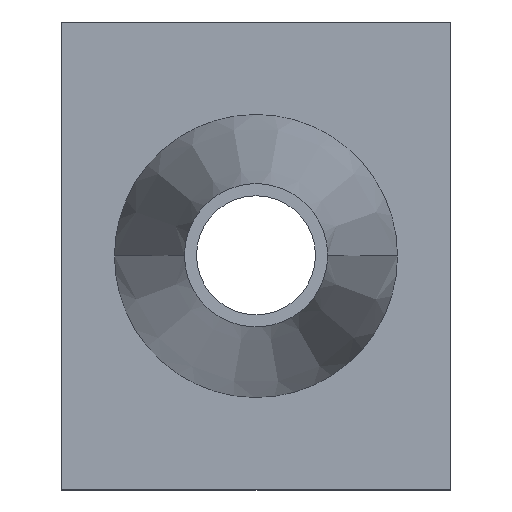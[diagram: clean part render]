
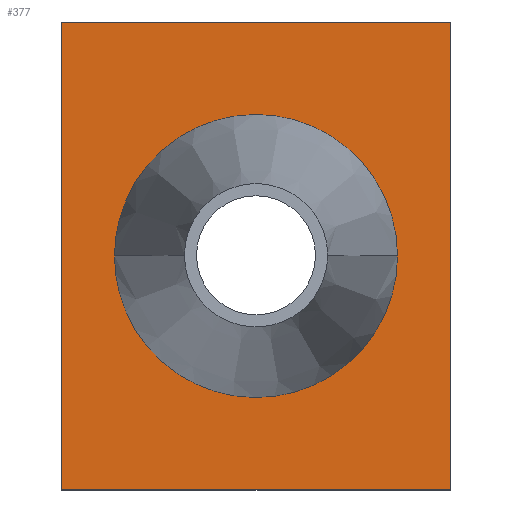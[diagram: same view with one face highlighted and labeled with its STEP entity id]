
A CAD part, top view. The second image highlights one B-rep face of the part: STEP entity #377.
In plain terms, the highlighted planar face has unit normal (0, 0, 1).
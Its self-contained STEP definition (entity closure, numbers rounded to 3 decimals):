
#167=CARTESIAN_POINT('Vertex',(0.,118.,3.)) ;
#174=CARTESIAN_POINT('Vertex',(0.,0.,3.)) ;
#177=CARTESIAN_POINT('Line Origine',(0.,59.,3.)) ;
#198=CARTESIAN_POINT('Vertex',(98.,118.,3.)) ;
#201=CARTESIAN_POINT('Line Origine',(49.,118.,3.)) ;
#222=CARTESIAN_POINT('Vertex',(98.,0.,3.)) ;
#225=CARTESIAN_POINT('Line Origine',(98.,59.,3.)) ;
#242=CARTESIAN_POINT('Line Origine',(49.,0.,3.)) ;
#324=CARTESIAN_POINT('Axis2P3D Location',(0.,0.,3.)) ;
#336=CARTESIAN_POINT('Control Point',(84.679,59.,3.)) ;
#337=CARTESIAN_POINT('Control Point',(84.679,64.868,3.)) ;
#338=CARTESIAN_POINT('Control Point',(83.473,70.736,3.)) ;
#339=CARTESIAN_POINT('Control Point',(81.058,76.273,3.)) ;
#340=CARTESIAN_POINT('Control Point',(74.1,86.028,3.)) ;
#341=CARTESIAN_POINT('Control Point',(63.858,92.247,3.)) ;
#342=CARTESIAN_POINT('Control Point',(58.156,94.246,3.)) ;
#343=CARTESIAN_POINT('Control Point',(46.272,95.785,3.)) ;
#344=CARTESIAN_POINT('Control Point',(34.745,92.51,3.)) ;
#345=CARTESIAN_POINT('Control Point',(29.4,89.691,3.)) ;
#346=CARTESIAN_POINT('Control Point',(21.017,82.72,3.)) ;
#347=CARTESIAN_POINT('Control Point',(15.755,73.253,3.)) ;
#348=CARTESIAN_POINT('Control Point',(14.132,68.623,3.)) ;
#349=CARTESIAN_POINT('Control Point',(13.321,63.812,3.)) ;
#350=CARTESIAN_POINT('Control Point',(13.321,59.,3.)) ;
#351=CARTESIAN_POINT('Vertex',(84.679,59.,3.)) ;
#353=CARTESIAN_POINT('Vertex',(13.321,59.,3.)) ;
#357=CARTESIAN_POINT('Control Point',(84.679,59.,3.)) ;
#358=CARTESIAN_POINT('Control Point',(84.679,53.132,3.)) ;
#359=CARTESIAN_POINT('Control Point',(83.473,47.264,3.)) ;
#360=CARTESIAN_POINT('Control Point',(81.058,41.727,3.)) ;
#361=CARTESIAN_POINT('Control Point',(74.1,31.972,3.)) ;
#362=CARTESIAN_POINT('Control Point',(63.858,25.753,3.)) ;
#363=CARTESIAN_POINT('Control Point',(58.156,23.754,3.)) ;
#364=CARTESIAN_POINT('Control Point',(46.272,22.215,3.)) ;
#365=CARTESIAN_POINT('Control Point',(34.745,25.49,3.)) ;
#366=CARTESIAN_POINT('Control Point',(29.4,28.309,3.)) ;
#367=CARTESIAN_POINT('Control Point',(21.017,35.28,3.)) ;
#368=CARTESIAN_POINT('Control Point',(15.755,44.747,3.)) ;
#369=CARTESIAN_POINT('Control Point',(14.132,49.377,3.)) ;
#370=CARTESIAN_POINT('Control Point',(13.321,54.188,3.)) ;
#371=CARTESIAN_POINT('Control Point',(13.321,59.,3.)) ;
#178=DIRECTION('Vector Direction',(0.,1.,0.)) ;
#202=DIRECTION('Vector Direction',(-1.,0.,0.)) ;
#226=DIRECTION('Vector Direction',(0.,1.,0.)) ;
#243=DIRECTION('Vector Direction',(1.,0.,0.)) ;
#325=DIRECTION('Axis2P3D Direction',(0.,0.,1.)) ;
#326=DIRECTION('Axis2P3D XDirection',(1.,0.,0.)) ;
#327=AXIS2_PLACEMENT_3D('Plane Axis2P3D',#324,#325,#326) ;
#330=ORIENTED_EDGE('',*,*,#181,.F.) ;
#331=ORIENTED_EDGE('',*,*,#246,.T.) ;
#332=ORIENTED_EDGE('',*,*,#229,.T.) ;
#333=ORIENTED_EDGE('',*,*,#205,.T.) ;
#374=ORIENTED_EDGE('',*,*,#355,.F.) ;
#375=ORIENTED_EDGE('',*,*,#372,.T.) ;
#376=FACE_BOUND('',#373,.T.) ;
#179=VECTOR('Line Direction',#178,1.) ;
#203=VECTOR('Line Direction',#202,1.) ;
#227=VECTOR('Line Direction',#226,1.) ;
#244=VECTOR('Line Direction',#243,1.) ;
#377=ADVANCED_FACE('PartBody',(#334,#376),#328,.T.) ;
#335=B_SPLINE_CURVE_WITH_KNOTS('',5,(#336,#337,#338,#339,#340,#341,#342,#343,#344,#345,#346,#347,#348,#349,#350),.UNSPECIFIED.,.F.,.U.,(6,3,3,3,6),(0.,31.827,63.659,95.491,121.589),.UNSPECIFIED.) ;
#356=B_SPLINE_CURVE_WITH_KNOTS('',5,(#357,#358,#359,#360,#361,#362,#363,#364,#365,#366,#367,#368,#369,#370,#371),.UNSPECIFIED.,.F.,.U.,(6,3,3,3,6),(0.,31.827,63.659,95.491,121.589),.UNSPECIFIED.) ;
#181=EDGE_CURVE('',#175,#168,#180,.T.) ;
#205=EDGE_CURVE('',#199,#168,#204,.T.) ;
#229=EDGE_CURVE('',#223,#199,#228,.T.) ;
#246=EDGE_CURVE('',#175,#223,#245,.T.) ;
#355=EDGE_CURVE('',#352,#354,#335,.T.) ;
#372=EDGE_CURVE('',#352,#354,#356,.T.) ;
#329=EDGE_LOOP('',(#330,#331,#332,#333)) ;
#373=EDGE_LOOP('',(#374,#375)) ;
#334=FACE_OUTER_BOUND('',#329,.T.) ;
#180=LINE('Line',#177,#179) ;
#204=LINE('Line',#201,#203) ;
#228=LINE('Line',#225,#227) ;
#245=LINE('Line',#242,#244) ;
#328=PLANE('',#327) ;
#168=VERTEX_POINT('',#167) ;
#175=VERTEX_POINT('',#174) ;
#199=VERTEX_POINT('',#198) ;
#223=VERTEX_POINT('',#222) ;
#352=VERTEX_POINT('',#351) ;
#354=VERTEX_POINT('',#353) ;
